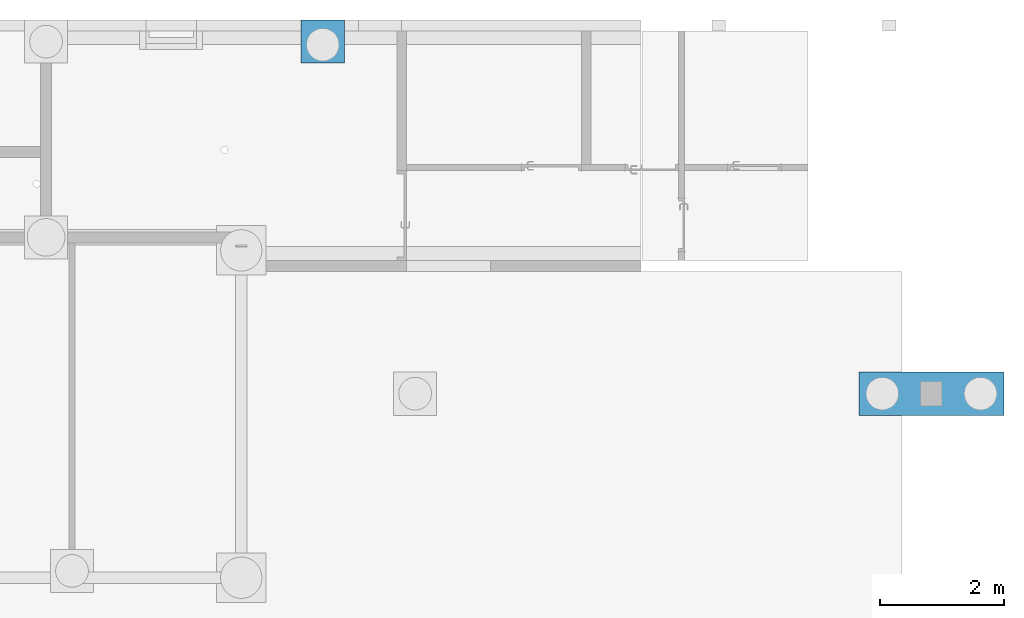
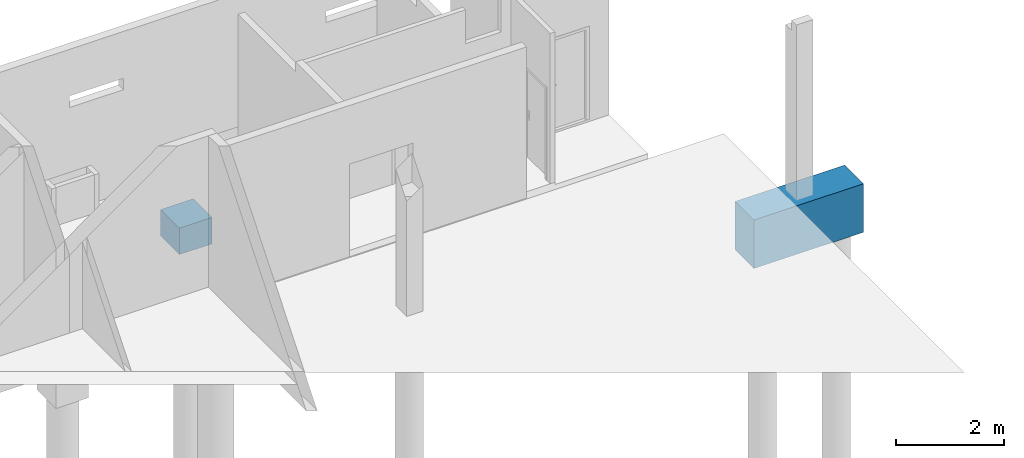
# One storey, part 21 of 29: 2 slabs.
"""IFC2X3 building model written with IfcOpenShell, lengths in centimetres."""

from ifc_helpers import new_model, entity, si_unit, converted_unit, derived_unit, direction, frame, origin, place, context, subcontext, project, spatial, faceted_brep, material, element, save


model = new_model("IFC2X3")

# Units and contexts
model_context = context("Model", 3, precision=0.001, world=origin(), true_north=direction((6.12303176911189e-17, 1.0)))
body_context = subcontext(model_context, "Body", "Model", "MODEL_VIEW")
ifc_project = project(units=[si_unit("LENGTHUNIT", "METRE", prefix="CENTI"), si_unit("AREAUNIT", "SQUARE_METRE"), si_unit("VOLUMEUNIT", "CUBIC_METRE"), converted_unit("PLANEANGLEUNIT", "DEGREE", entity("IfcRatioMeasure", 0.0174532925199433), si_unit("PLANEANGLEUNIT", "RADIAN"), dimensions=[0, 0, 0, 0, 0, 0, 0]), si_unit("MASSUNIT", "GRAM", prefix="KILO"), derived_unit("MASSDENSITYUNIT", [(si_unit("MASSUNIT", "GRAM", prefix="KILO"), 1), (si_unit("LENGTHUNIT", "METRE"), -3)]), si_unit("TIMEUNIT", "SECOND"), si_unit("FREQUENCYUNIT", "HERTZ"), si_unit("THERMODYNAMICTEMPERATUREUNIT", "DEGREE_CELSIUS"), derived_unit("THERMALTRANSMITTANCEUNIT", [(si_unit("MASSUNIT", "GRAM", prefix="KILO"), 1), (si_unit("THERMODYNAMICTEMPERATUREUNIT", "KELVIN"), -1), (si_unit("TIMEUNIT", "SECOND"), -3)]), derived_unit("VOLUMETRICFLOWRATEUNIT", [(si_unit("LENGTHUNIT", "METRE"), 3), (si_unit("TIMEUNIT", "SECOND"), -1)]), si_unit("ELECTRICCURRENTUNIT", "AMPERE"), si_unit("ELECTRICVOLTAGEUNIT", "VOLT"), si_unit("POWERUNIT", "WATT"), si_unit("FORCEUNIT", "NEWTON"), si_unit("ILLUMINANCEUNIT", "LUX"), si_unit("LUMINOUSFLUXUNIT", "LUMEN"), si_unit("LUMINOUSINTENSITYUNIT", "CANDELA"), derived_unit("USERDEFINED", [(si_unit("MASSUNIT", "GRAM", prefix="KILO"), -1), (si_unit("LENGTHUNIT", "METRE"), -2), (si_unit("TIMEUNIT", "SECOND"), 3), (si_unit("LUMINOUSFLUXUNIT", "LUMEN"), 1)]), derived_unit("LINEARVELOCITYUNIT", [(si_unit("LENGTHUNIT", "METRE"), 1), (si_unit("TIMEUNIT", "SECOND"), -1)]), si_unit("PRESSUREUNIT", "PASCAL"), derived_unit("USERDEFINED", [(si_unit("LENGTHUNIT", "METRE"), -2), (si_unit("MASSUNIT", "GRAM", prefix="KILO"), 1), (si_unit("TIMEUNIT", "SECOND"), -2)])], contexts=[model_context])

# Site, building, storey
site_placement = place(None, origin())
site = spatial("IfcSite", under=ifc_project, at=site_placement, Name="Default", CompositionType="ELEMENT")
building_placement = place(site_placement, origin())
building = spatial("IfcBuilding", under=site, at=building_placement, Name="CAGE 03", CompositionType="ELEMENT")
storey_placement = place(building_placement, frame((0.0, 0.0, -26.0)))
storey = spatial("IfcBuildingStorey", under=building, at=storey_placement, Name="+3.74", CompositionType="ELEMENT", Elevation=-26.0000000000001)

# Slabs
ifc_material = material(Name="Béton, C25/30")
slab_1_placement = place(storey_placement, frame((9140.36489605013, 4653.66066607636, -142.0)))
element("IfcSlab", 1, at=slab_1_placement, inside=storey, material=ifc_material, Name="M_Base-Rectangulaire:235x70x110ht", ObjectType="M_Base-Rectangulaire:235x70x110ht", PredefinedType="BASESLAB", context=body_context, shape_type="Brep", body=[
    faceted_brep([(235.0, 70.0, 110.0), (0.0, 70.0, 110.0), (0.0, 0.0, 110.0), (235.0, 0.0, 110.0), (0.0, 0.0, 0.0), (40.7700042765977, 8.64516977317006, 0.0), (235.0, 0.0, 0.0), (35.6445129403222, 10.310542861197, 0.0), (30.519021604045, 11.975915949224, 0.0), (25.3935302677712, 13.6412890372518, 0.0), (20.2680389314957, 15.3066621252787, 0.0), (18.0760291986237, 20.2299965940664, 0.0), (15.88401946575, 25.1533310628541, 0.0), (13.692009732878, 30.0766655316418, 0.0), (11.500000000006, 35.0, 0.0), (0.0, 70.0, 0.0), (14.0305248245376, 42.7881545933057, 0.0), (16.5610496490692, 50.5763091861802, 0.0), (21.2282861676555, 53.2709394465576, 0.0), (25.8955226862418, 55.965569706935, 0.0), (30.5627592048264, 58.6601999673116, 0.0), (35.2299957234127, 61.354830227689, 0.0), (194.229995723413, 61.354830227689, 0.0), (235.0, 70.0, 0.0), (223.500000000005, 35.0, 0.0), (221.307990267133, 39.9233344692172, 0.0), (199.355487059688, 59.689457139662, 0.0), (204.480978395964, 58.0240840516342, 0.0), (209.606469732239, 56.3587109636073, 0.0), (214.731961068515, 54.6933378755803, 0.0), (219.115980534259, 44.8466689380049, 0.0), (216.923970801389, 49.7700034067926, 0.0), (40.3554870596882, 59.689457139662, 0.0), (45.480978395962, 58.0240840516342, 0.0), (50.6064697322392, 56.3587109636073, 0.0), (55.7319610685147, 54.6933378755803, 0.0), (189.562759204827, 58.6601999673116, 0.0), (184.89552268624, 55.965569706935, 0.0), (180.228286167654, 53.2709394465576, 0.0), (175.561049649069, 50.5763091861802, 0.0), (57.9239708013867, 49.7700034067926, 0.0), (60.1159805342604, 44.8466689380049, 0.0), (62.3079902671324, 39.9233344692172, 0.0), (64.5000000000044, 35.0, 0.0), (173.03052482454, 42.7881545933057, 0.0), (170.500000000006, 35.0, 0.0), (61.9694751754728, 27.2118454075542, 0.0), (59.4389503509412, 19.4236908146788, 0.0), (172.692009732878, 30.0766655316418, 0.0), (174.884019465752, 25.1533310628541, 0.0), (177.076029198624, 20.2299965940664, 0.0), (179.268038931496, 15.3066621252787, 0.0), (45.437240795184, 11.3398000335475, 0.0), (184.393530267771, 13.6412890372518, 0.0), (50.1044773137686, 14.034430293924, 0.0), (54.7717138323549, 16.7290605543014, 0.0), (189.519021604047, 11.975915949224, 0.0), (194.644512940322, 10.310542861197, 0.0), (199.770004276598, 8.64516977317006, 0.0), (204.437240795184, 11.3398000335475, 0.0), (209.104477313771, 14.034430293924, 0.0), (213.771713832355, 16.7290605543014, 0.0), (218.438950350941, 19.4236908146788, 0.0), (220.969475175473, 27.2118454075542, 0.0), (11.5000000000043, 35.0, 5.0), (13.692009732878, 39.9233344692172, 5.0), (15.88401946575, 44.8466689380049, 5.0), (18.0760291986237, 49.7700034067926, 5.0), (20.268038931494, 54.6933378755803, 5.0), (25.3935302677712, 56.3587109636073, 5.0), (30.5190216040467, 58.0240840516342, 5.0), (35.6445129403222, 59.689457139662, 5.0), (40.7700042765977, 61.354830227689, 5.0), (45.437240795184, 58.6601999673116, 5.0), (50.1044773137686, 55.965569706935, 5.0), (54.7717138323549, 53.2709394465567, 5.0), (59.4389503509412, 50.5763091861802, 5.0), (61.9694751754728, 42.7881545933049, 5.0), (64.5000000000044, 35.0, 5.0), (62.3079902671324, 30.0766655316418, 5.0), (60.1159805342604, 25.1533310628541, 5.0), (57.9239708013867, 20.2299965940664, 5.0), (55.7319610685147, 15.3066621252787, 5.0), (50.6064697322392, 13.6412890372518, 5.0), (45.4809783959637, 11.9759159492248, 5.0), (40.3554870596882, 10.310542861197, 5.0), (35.229995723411, 8.64516977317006, 5.0), (30.5627592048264, 11.3398000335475, 5.0), (25.8955226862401, 14.034430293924, 5.0), (21.2282861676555, 16.7290605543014, 5.0), (16.5610496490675, 19.4236908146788, 5.0), (14.0305248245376, 27.2118454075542, 5.0), (170.500000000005, 35.0, 5.0), (172.692009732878, 39.9233344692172, 5.0), (174.88401946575, 44.8466689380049, 5.0), (177.076029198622, 49.7700034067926, 5.0), (179.268038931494, 54.6933378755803, 5.0), (184.393530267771, 56.3587109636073, 5.0), (189.519021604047, 58.0240840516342, 5.0), (194.644512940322, 59.689457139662, 5.0), (199.770004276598, 61.354830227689, 5.0), (204.437240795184, 58.6601999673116, 5.0), (209.104477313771, 55.965569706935, 5.0), (213.771713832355, 53.2709394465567, 5.0), (218.438950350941, 50.5763091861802, 5.0), (220.969475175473, 42.7881545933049, 5.0), (223.500000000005, 35.0, 5.0), (221.307990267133, 30.0766655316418, 5.0), (219.115980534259, 25.1533310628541, 5.0), (216.923970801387, 20.2299965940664, 5.0), (214.731961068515, 15.3066621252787, 5.0), (209.606469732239, 13.6412890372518, 5.0), (204.480978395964, 11.9759159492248, 5.0), (199.355487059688, 10.310542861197, 5.0), (194.229995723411, 8.64516977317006, 5.0), (189.562759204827, 11.3398000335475, 5.0), (184.89552268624, 14.034430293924, 5.0), (180.228286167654, 16.7290605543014, 5.0), (175.561049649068, 19.4236908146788, 5.0), (173.030524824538, 27.2118454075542, 5.0)], [[[0, 1, 2, 3]], [[4, 5, 6]], [[4, 7, 5]], [[4, 8, 7]], [[4, 9, 8]], [[4, 10, 9]], [[4, 11, 10]], [[4, 12, 11]], [[4, 13, 12]], [[4, 14, 13]], [[14, 4, 15]], [[15, 16, 14]], [[15, 17, 16]], [[15, 18, 17]], [[15, 19, 18]], [[15, 20, 19]], [[15, 21, 20]], [[21, 15, 22]], [[23, 22, 15]], [[24, 23, 6]], [[23, 24, 25]], [[23, 26, 22]], [[23, 27, 26]], [[23, 28, 27]], [[23, 29, 28]], [[23, 25, 30]], [[23, 30, 31]], [[23, 31, 29]], [[22, 32, 21]], [[22, 33, 32]], [[22, 34, 33]], [[22, 35, 34]], [[35, 22, 36]], [[35, 36, 37]], [[35, 37, 38]], [[35, 38, 39]], [[39, 40, 35]], [[39, 41, 40]], [[39, 42, 41]], [[39, 43, 42]], [[43, 39, 44]], [[43, 44, 45]], [[45, 46, 43]], [[45, 47, 46]], [[47, 45, 48]], [[47, 48, 49]], [[47, 49, 50]], [[47, 50, 51]], [[51, 5, 52]], [[5, 51, 53]], [[51, 52, 54]], [[51, 54, 55]], [[51, 55, 47]], [[5, 53, 56]], [[5, 56, 57]], [[5, 57, 58]], [[6, 58, 59]], [[58, 6, 5]], [[6, 59, 60]], [[6, 60, 61]], [[6, 61, 62]], [[6, 62, 63]], [[6, 63, 24]], [[2, 1, 15, 4]], [[3, 2, 4, 6]], [[0, 3, 6, 23]], [[1, 0, 23, 15]], [[64, 65, 66, 67, 68, 69, 70, 71, 72, 73, 74, 75, 76, 77, 78, 79, 80, 81, 82, 83, 84, 85, 86, 87, 88, 89, 90, 91]], [[92, 93, 94, 95, 96, 97, 98, 99, 100, 101, 102, 103, 104, 105, 106, 107, 108, 109, 110, 111, 112, 113, 114, 115, 116, 117, 118, 119]], [[11, 12, 90]], [[91, 13, 64]], [[91, 90, 12]], [[90, 89, 11]], [[46, 47, 80]], [[87, 86, 8]], [[64, 13, 14]], [[54, 83, 55]], [[9, 10, 88]], [[47, 55, 82]], [[46, 79, 43]], [[8, 86, 7]], [[88, 10, 89]], [[12, 13, 91]], [[85, 7, 86]], [[89, 10, 11]], [[84, 83, 54]], [[9, 87, 8]], [[82, 55, 83]], [[81, 80, 47, 82]], [[85, 5, 7]], [[52, 5, 84, 54]], [[9, 88, 87]], [[78, 43, 79]], [[85, 84, 5]], [[46, 80, 79]], [[40, 41, 76]], [[77, 42, 78]], [[77, 76, 41]], [[76, 75, 40]], [[74, 35, 75]], [[73, 34, 74]], [[78, 42, 43]], [[21, 71, 20]], [[73, 72, 33]], [[67, 66, 17, 68]], [[16, 65, 14]], [[33, 72, 32]], [[41, 42, 77]], [[71, 21, 32]], [[75, 35, 40]], [[70, 69, 19]], [[34, 35, 74]], [[16, 17, 66]], [[73, 33, 34]], [[64, 14, 65]], [[70, 20, 71]], [[68, 18, 69]], [[19, 69, 18]], [[68, 17, 18]], [[71, 32, 72]], [[70, 19, 20]], [[16, 66, 65]], [[50, 49, 118]], [[119, 48, 92]], [[119, 118, 49]], [[118, 117, 50]], [[63, 62, 108]], [[115, 114, 56]], [[92, 48, 45]], [[60, 111, 61]], [[53, 51, 116]], [[62, 61, 110]], [[63, 107, 24]], [[56, 114, 57]], [[116, 51, 117]], [[49, 48, 119]], [[113, 57, 114]], [[117, 51, 50]], [[112, 111, 60]], [[53, 115, 56]], [[110, 61, 111]], [[109, 108, 62, 110]], [[113, 58, 57]], [[59, 58, 112, 60]], [[53, 116, 115]], [[106, 24, 107]], [[113, 112, 58]], [[63, 108, 107]], [[31, 30, 104]], [[105, 25, 106]], [[105, 104, 30]], [[104, 103, 31]], [[102, 29, 103]], [[101, 28, 102]], [[106, 25, 24]], [[22, 99, 36]], [[101, 100, 27]], [[95, 94, 39, 96]], [[44, 93, 45]], [[27, 100, 26]], [[30, 25, 105]], [[99, 22, 26]], [[103, 29, 31]], [[98, 97, 37]], [[28, 29, 102]], [[44, 39, 94]], [[101, 27, 28]], [[92, 45, 93]], [[98, 36, 99]], [[96, 38, 97]], [[37, 97, 38]], [[96, 39, 38]], [[99, 26, 100]], [[98, 37, 36]], [[44, 94, 93]]]),
])
slab_2_placement = place(storey_placement, frame((8237.36582014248, 5223.6606660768, -140.0)))
element("IfcSlab", 2, at=slab_2_placement, inside=storey, material=ifc_material, Name="M_Base-Rectangulaire:70x70x60ht", ObjectType="M_Base-Rectangulaire:70x70x60ht", PredefinedType="BASESLAB", context=body_context, shape_type="Brep", body=[
    faceted_brep([(35.0, 70.0, 60.0), (0.0, 70.0, 60.0), (0.0, 0.0, 60.0), (70.0, 0.0, 60.0), (70.0, 70.0, 60.0), (0.0, 0.0, 0.0), (17.2680389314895, 10.3066621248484, 0.0), (22.393530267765, 8.64128903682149, 0.0), (27.5190216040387, 6.97591594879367, 0.0), (32.644512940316, 5.31054286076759, 0.0), (37.7700042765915, 3.64516977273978, 0.0), (70.0, 0.0, 0.0), (15.0760291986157, 15.2299965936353, 0.0), (12.8840194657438, 20.1533310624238, 0.0), (10.6920097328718, 25.0766655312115, 0.0), (8.4999999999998, 30.0, 0.0), (0.0, 70.0, 0.0), (11.0305248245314, 37.7881545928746, 0.0), (13.561049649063, 45.5763091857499, 0.0), (18.2282861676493, 48.2709394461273, 0.0), (22.8955226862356, 50.9655697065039, 0.0), (27.5627592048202, 53.6601999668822, 0.0), (32.2299957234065, 56.3548302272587, 0.0), (70.0, 70.0, 0.0), (61.4999999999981, 30.0, 0.0), (59.3079902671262, 34.9233344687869, 0.0), (37.3554870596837, 54.6894571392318, 0.0), (42.4809783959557, 53.024084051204, 0.0), (47.606469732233, 51.358710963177, 0.0), (52.7319610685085, 49.6933378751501, 0.0), (57.1159805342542, 39.8466689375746, 0.0), (54.9239708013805, 44.7700034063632, 0.0), (42.4372407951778, 6.33980003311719, 0.0), (47.1044773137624, 9.03443029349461, 0.0), (51.7717138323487, 11.7290605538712, 0.0), (56.438950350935, 14.4236908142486, 0.0), (58.9694751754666, 22.2118454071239, 0.0), (8.49999999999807, 30.0, 5.0), (10.6920097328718, 34.9233344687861, 5.0), (12.8840194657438, 39.8466689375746, 5.0), (15.0760291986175, 44.7700034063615, 5.0), (17.2680389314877, 49.6933378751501, 5.0), (22.393530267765, 51.358710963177, 5.0), (27.5190216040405, 53.0240840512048, 5.0), (32.644512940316, 54.6894571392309, 5.0), (37.7700042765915, 56.3548302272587, 5.0), (42.4372407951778, 53.6601999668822, 5.0), (47.1044773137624, 50.9655697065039, 5.0), (51.7717138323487, 48.2709394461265, 5.0), (56.438950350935, 45.5763091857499, 5.0), (58.9694751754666, 37.7881545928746, 5.0), (61.4999999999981, 30.0, 5.0), (59.3079902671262, 25.0766655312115, 5.0), (57.1159805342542, 20.1533310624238, 5.0), (54.9239708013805, 15.2299965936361, 5.0), (52.7319610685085, 10.3066621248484, 5.0), (47.606469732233, 8.64128903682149, 5.0), (42.4809783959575, 6.97591594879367, 5.0), (37.355487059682, 5.31054286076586, 5.0), (32.2299957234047, 3.64516977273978, 5.0), (27.5627592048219, 6.33980003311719, 5.0), (22.8955226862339, 9.03443029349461, 5.0), (18.2282861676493, 11.7290605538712, 5.0), (13.5610496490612, 14.4236908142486, 5.0), (11.0305248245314, 22.2118454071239, 5.0)], [[[0, 1, 2, 3, 4]], [[5, 6, 7]], [[5, 7, 8]], [[5, 8, 9]], [[5, 9, 10]], [[5, 10, 11]], [[5, 12, 6]], [[5, 13, 12]], [[5, 14, 13]], [[5, 15, 14]], [[16, 15, 5]], [[16, 17, 15]], [[16, 18, 17]], [[16, 19, 18]], [[16, 20, 19]], [[16, 21, 20]], [[16, 22, 21]], [[23, 22, 16]], [[11, 24, 23]], [[23, 24, 25]], [[23, 26, 22]], [[23, 27, 26]], [[23, 28, 27]], [[23, 29, 28]], [[23, 25, 30]], [[23, 30, 31]], [[23, 31, 29]], [[11, 10, 32]], [[11, 32, 33]], [[11, 33, 34]], [[11, 34, 35]], [[11, 35, 36]], [[11, 36, 24]], [[2, 1, 16, 5]], [[3, 2, 5, 11]], [[4, 3, 11, 23]], [[0, 4, 23, 16, 1]], [[37, 38, 39, 40, 41, 42, 43, 44, 45, 46, 47, 48, 49, 50, 51, 52, 53, 54, 55, 56, 57, 58, 59, 60, 61, 62, 63, 64]], [[12, 13, 63]], [[64, 14, 37]], [[64, 63, 13]], [[63, 62, 12]], [[36, 35, 53]], [[60, 59, 8]], [[37, 14, 15]], [[33, 56, 34]], [[7, 6, 61]], [[35, 34, 55]], [[36, 52, 24]], [[8, 59, 9]], [[61, 6, 62]], [[13, 14, 64]], [[58, 9, 59]], [[62, 6, 12]], [[57, 56, 33]], [[7, 60, 8]], [[55, 34, 56]], [[54, 53, 35, 55]], [[58, 10, 9]], [[32, 10, 57, 33]], [[7, 61, 60]], [[51, 24, 52]], [[58, 57, 10]], [[36, 53, 52]], [[31, 30, 49]], [[50, 25, 51]], [[50, 49, 30]], [[49, 48, 31]], [[47, 29, 48]], [[46, 28, 47]], [[51, 25, 24]], [[22, 44, 21]], [[46, 45, 27]], [[40, 39, 18, 41]], [[17, 38, 15]], [[27, 45, 26]], [[30, 25, 50]], [[44, 22, 26]], [[48, 29, 31]], [[43, 42, 20]], [[28, 29, 47]], [[17, 18, 39]], [[46, 27, 28]], [[37, 15, 38]], [[43, 21, 44]], [[41, 19, 42]], [[20, 42, 19]], [[41, 18, 19]], [[44, 26, 45]], [[43, 20, 21]], [[17, 39, 38]]]),
])

save(model, "model.ifc")
